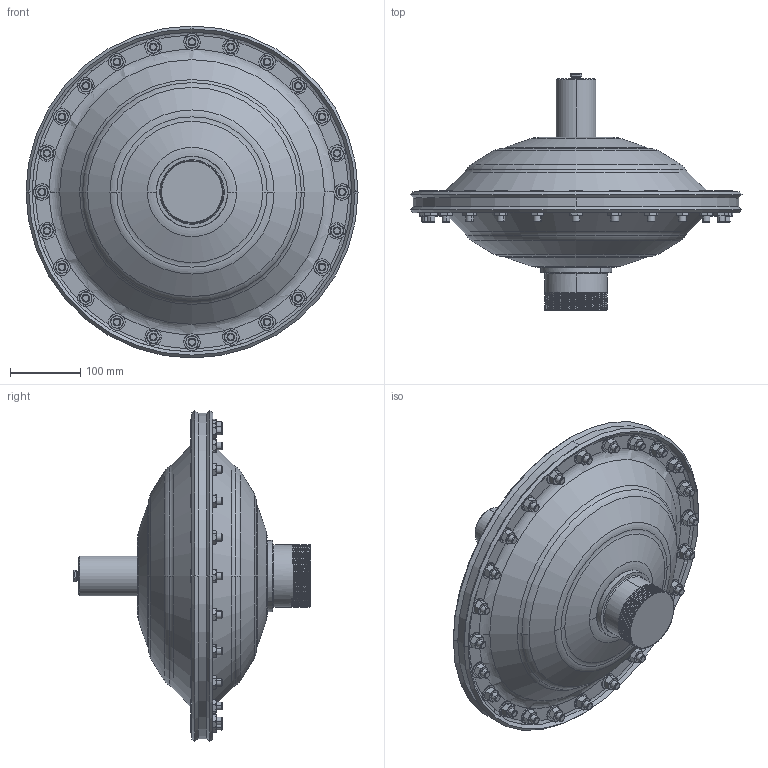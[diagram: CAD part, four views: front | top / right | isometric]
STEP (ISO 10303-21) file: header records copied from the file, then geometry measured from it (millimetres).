
FILE_DESCRIPTION (( 'STEP AP214' ), '1' );
FILE_NAME ('WIL_3in_Metal_Dampener.STEP', '2022-05-26T18:36:20', ( '' ), ( '' ), 'SwSTEP 2.0', 'SolidWorks 2019', '' );
FILE_SCHEMA (( 'AUTOMOTIVE_DESIGN' ));
Length unit declared in the file: millimetre
Products named in the file (1): WIL_3in_Metal_Dampener
Bounding box: 473.72 x 338.61 x 473.72 mm (x, y, z)
Volume: 15521582.7 mm3; surface area: 534089.1 mm2
Topology: 1 solids, 50 shells, 1508 faces, 3496 edges, 2168 vertices
Faces by surface type: plane 572, cone 520, cylinder 372, torus 30, bspline 8, sphere 6
Entity records: 79629 total; most frequent: CARTESIAN_POINT 29838, ORIENTED_EDGE 6980, DIRECTION 6866, EDGE_CURVE 3490, AXIS2_PLACEMENT_3D 2988, VERTEX_POINT 2168, EDGE_LOOP 1690, ADVANCED_FACE 1508
